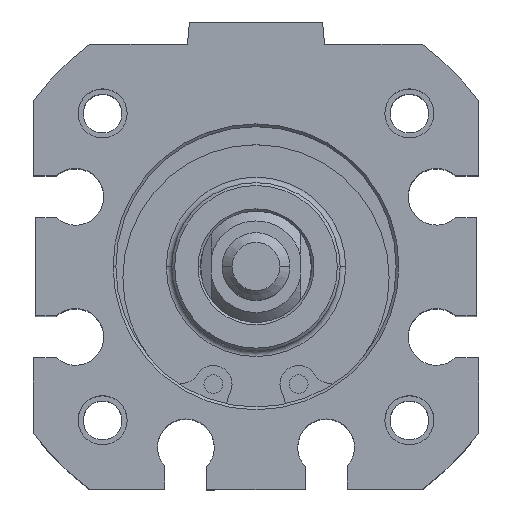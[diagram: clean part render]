
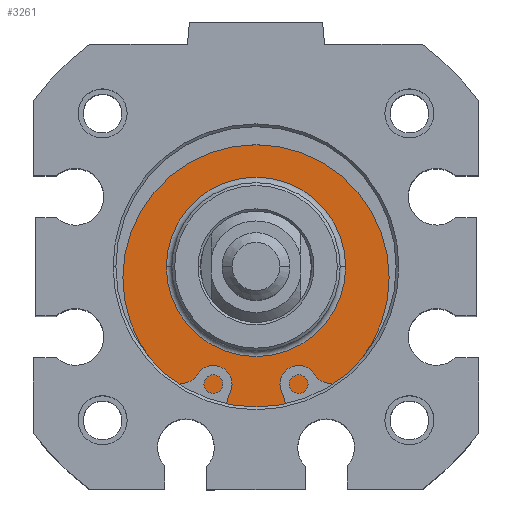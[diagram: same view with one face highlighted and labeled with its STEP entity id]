
A CAD part, top view. The second image highlights one B-rep face of the part: STEP entity #3261.
In plain terms, the highlighted planar face has unit normal (0, 0, 1).
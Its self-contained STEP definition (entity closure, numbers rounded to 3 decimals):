
#63 = EDGE_CURVE ( 'NONE', #3812, #160, #3054, .T. ) ;
#160 = VERTEX_POINT ( 'NONE', #1946 ) ;
#266 = DIRECTION ( 'NONE',  ( 1., 0., 0. ) ) ;
#690 = EDGE_LOOP ( 'NONE', ( #2134, #3980 ) ) ;
#769 = CIRCLE ( 'NONE', #2060, 6.4 ) ;
#886 = CARTESIAN_POINT ( 'NONE',  ( 0., 0., 11.337 ) ) ;
#930 = CIRCLE ( 'NONE', #2052, 6.4 ) ;
#978 = ORIENTED_EDGE ( 'NONE', *, *, #2306, .T. ) ;
#1034 = VERTEX_POINT ( 'NONE', #1047 ) ;
#1047 = CARTESIAN_POINT ( 'NONE',  ( 6.4, 0., 11.337 ) ) ;
#1224 = CARTESIAN_POINT ( 'NONE',  ( -10.5, 0., 11.337 ) ) ;
#1468 = DIRECTION ( 'NONE',  ( 1., 0., 0. ) ) ;
#1599 = EDGE_CURVE ( 'NONE', #3300, #1034, #930, .T. ) ;
#1604 = CARTESIAN_POINT ( 'NONE',  ( -6.4, 0., 11.337 ) ) ;
#1804 = PLANE ( 'NONE',  #3328 ) ;
#1946 = CARTESIAN_POINT ( 'NONE',  ( 10.5, 0., 11.337 ) ) ;
#2018 = DIRECTION ( 'NONE',  ( 1., 0., 0. ) ) ;
#2052 = AXIS2_PLACEMENT_3D ( 'NONE', #3465, #2189, #4265 ) ;
#2060 = AXIS2_PLACEMENT_3D ( 'NONE', #2323, #3133, #3203 ) ;
#2134 = ORIENTED_EDGE ( 'NONE', *, *, #3237, .T. ) ;
#2189 = DIRECTION ( 'NONE',  ( 0., 0., -1. ) ) ;
#2234 = FACE_OUTER_BOUND ( 'NONE', #4603, .T. ) ;
#2240 = CARTESIAN_POINT ( 'NONE',  ( 0., 0., 11.337 ) ) ;
#2306 = EDGE_CURVE ( 'NONE', #160, #3812, #2986, .T. ) ;
#2323 = CARTESIAN_POINT ( 'NONE',  ( 0., 0., 11.337 ) ) ;
#2449 = DIRECTION ( 'NONE',  ( 0., 0., 1. ) ) ;
#2843 = DIRECTION ( 'NONE',  ( 0., 0., 1. ) ) ;
#2986 = CIRCLE ( 'NONE', #4568, 10.5 ) ;
#3018 = CARTESIAN_POINT ( 'NONE',  ( 0., 10.5, 11.337 ) ) ;
#3054 = CIRCLE ( 'NONE', #4490, 10.5 ) ;
#3133 = DIRECTION ( 'NONE',  ( 0., 0., -1. ) ) ;
#3203 = DIRECTION ( 'NONE',  ( 1., 0., 0. ) ) ;
#3237 = EDGE_CURVE ( 'NONE', #1034, #3300, #769, .T. ) ;
#3261 = ADVANCED_FACE ( 'NONE', ( #4396, #2234 ), #1804, .T. ) ;
#3300 = VERTEX_POINT ( 'NONE', #1604 ) ;
#3328 = AXIS2_PLACEMENT_3D ( 'NONE', #3018, #4220, #266 ) ;
#3465 = CARTESIAN_POINT ( 'NONE',  ( 0., 0., 11.337 ) ) ;
#3812 = VERTEX_POINT ( 'NONE', #1224 ) ;
#3980 = ORIENTED_EDGE ( 'NONE', *, *, #1599, .T. ) ;
#4082 = ORIENTED_EDGE ( 'NONE', *, *, #63, .T. ) ;
#4220 = DIRECTION ( 'NONE',  ( 0., 0., 1. ) ) ;
#4265 = DIRECTION ( 'NONE',  ( 1., 0., 0. ) ) ;
#4396 = FACE_BOUND ( 'NONE', #690, .T. ) ;
#4490 = AXIS2_PLACEMENT_3D ( 'NONE', #2240, #2843, #2018 ) ;
#4568 = AXIS2_PLACEMENT_3D ( 'NONE', #886, #2449, #1468 ) ;
#4603 = EDGE_LOOP ( 'NONE', ( #978, #4082 ) ) ;
